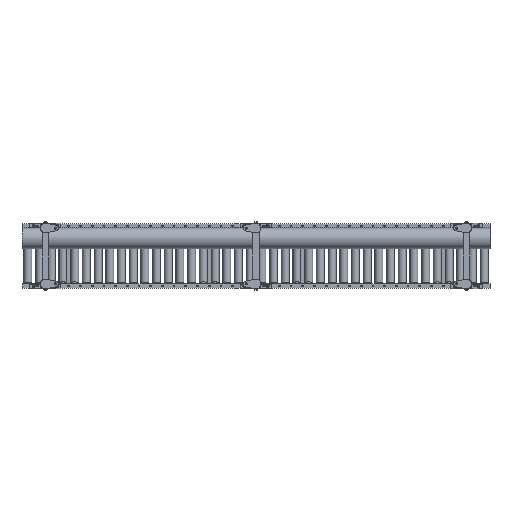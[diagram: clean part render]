
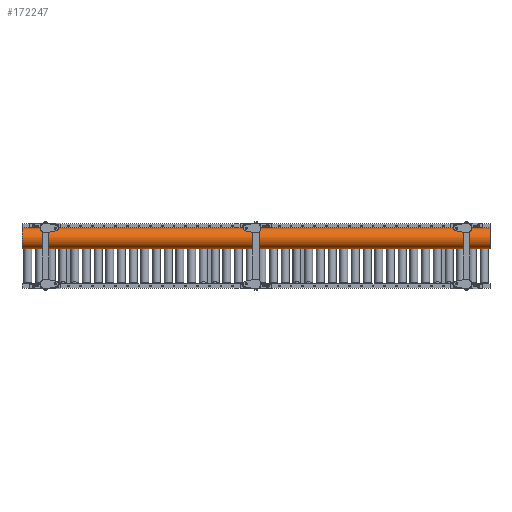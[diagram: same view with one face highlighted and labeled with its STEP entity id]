
A CAD part, front view. The second image highlights one B-rep face of the part: STEP entity #172247.
In plain terms, the highlighted cylindrical face has radius 66.89 mm (diameter 133.78 mm), a partial arc.
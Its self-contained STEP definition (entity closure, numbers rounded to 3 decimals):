
#5754 = ORIENTED_EDGE ( 'NONE', *, *, #184143, .T. ) ;
#6740 = DIRECTION ( 'NONE',  ( 0., 0., -1. ) ) ;
#7141 = DIRECTION ( 'NONE',  ( 1., 0., 0. ) ) ;
#11427 = EDGE_CURVE ( 'NONE', #45291, #82371, #96123, .T. ) ;
#11693 = CARTESIAN_POINT ( 'NONE',  ( -3000., -150., 112.61 ) ) ;
#15641 = CYLINDRICAL_SURFACE ( 'NONE', #125597, 66.89 ) ;
#20247 = FACE_OUTER_BOUND ( 'NONE', #127548, .T. ) ;
#20967 = DIRECTION ( 'NONE',  ( 1., 0., 0. ) ) ;
#23344 = ORIENTED_EDGE ( 'NONE', *, *, #104565, .F. ) ;
#26147 = EDGE_CURVE ( 'NONE', #82371, #132752, #101213, .T. ) ;
#38632 = VECTOR ( 'NONE', #97431, 1000. ) ;
#41329 = DIRECTION ( 'NONE',  ( -1., 0., 0. ) ) ;
#45291 = VERTEX_POINT ( 'NONE', #107286 ) ;
#50494 = ORIENTED_EDGE ( 'NONE', *, *, #26147, .F. ) ;
#64188 = CARTESIAN_POINT ( 'NONE',  ( -3177.652, -150., 112.61 ) ) ;
#68928 = LINE ( 'NONE', #155290, #101263 ) ;
#74259 = AXIS2_PLACEMENT_3D ( 'NONE', #11693, #41329, #160452 ) ;
#74500 = AXIS2_PLACEMENT_3D ( 'NONE', #154701, #7141, #81359 ) ;
#81359 = DIRECTION ( 'NONE',  ( 0., 0., 1. ) ) ;
#82371 = VERTEX_POINT ( 'NONE', #106291 ) ;
#82657 = CARTESIAN_POINT ( 'NONE',  ( -3177.652, -150., 179.5 ) ) ;
#91658 = ORIENTED_EDGE ( 'NONE', *, *, #11427, .F. ) ;
#93534 = CARTESIAN_POINT ( 'NONE',  ( 0., -150., 45.72 ) ) ;
#96123 = LINE ( 'NONE', #82657, #38632 ) ;
#97431 = DIRECTION ( 'NONE',  ( 1., 0., 0. ) ) ;
#101213 = CIRCLE ( 'NONE', #74500, 66.89 ) ;
#101263 = VECTOR ( 'NONE', #141185, 1000. ) ;
#104565 = EDGE_CURVE ( 'NONE', #143213, #45291, #141987, .T. ) ;
#106291 = CARTESIAN_POINT ( 'NONE',  ( 0., -150., 179.5 ) ) ;
#107286 = CARTESIAN_POINT ( 'NONE',  ( -3000., -150., 179.5 ) ) ;
#125597 = AXIS2_PLACEMENT_3D ( 'NONE', #64188, #20967, #6740 ) ;
#127548 = EDGE_LOOP ( 'NONE', ( #23344, #5754, #50494, #91658 ) ) ;
#130194 = CARTESIAN_POINT ( 'NONE',  ( -3000., -150., 45.72 ) ) ;
#132752 = VERTEX_POINT ( 'NONE', #93534 ) ;
#141185 = DIRECTION ( 'NONE',  ( 1., 0., 0. ) ) ;
#141987 = CIRCLE ( 'NONE', #74259, 66.89 ) ;
#143213 = VERTEX_POINT ( 'NONE', #130194 ) ;
#154701 = CARTESIAN_POINT ( 'NONE',  ( 0., -150., 112.61 ) ) ;
#155290 = CARTESIAN_POINT ( 'NONE',  ( -3177.652, -150., 45.72 ) ) ;
#160452 = DIRECTION ( 'NONE',  ( 0., 0., -1. ) ) ;
#172247 = ADVANCED_FACE ( 'NONE', ( #20247 ), #15641, .T. ) ;
#184143 = EDGE_CURVE ( 'NONE', #143213, #132752, #68928, .T. ) ;
